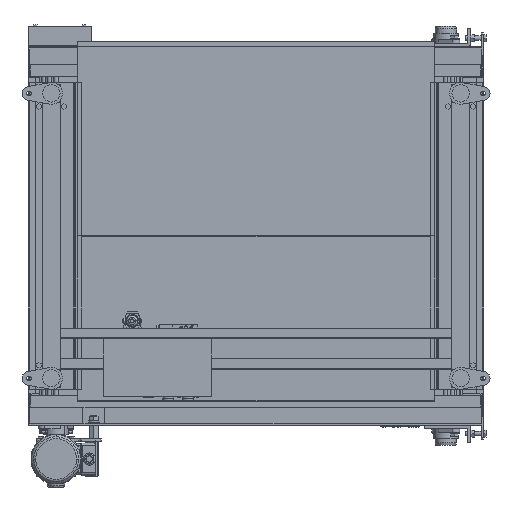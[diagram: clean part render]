
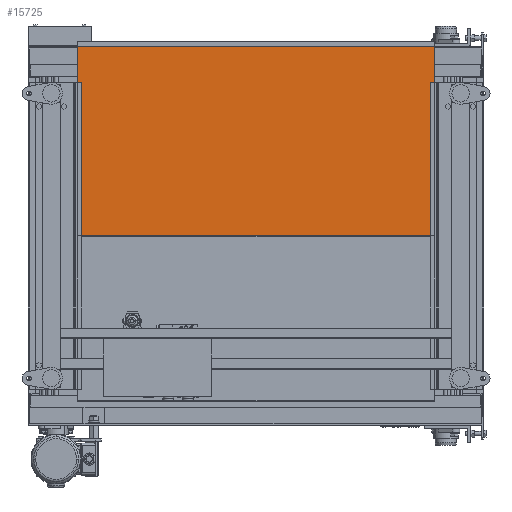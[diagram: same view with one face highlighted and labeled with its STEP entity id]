
A CAD part, front view. The second image highlights one B-rep face of the part: STEP entity #15725.
In plain terms, the highlighted planar face has unit normal (0, -1, 0).
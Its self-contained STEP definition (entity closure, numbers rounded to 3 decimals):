
#3663 = EDGE_LOOP ( 'NONE', ( #53351, #48130, #110041, #100656 ) ) ;
#7161 = EDGE_CURVE ( 'NONE', #27708, #118014, #70258, .T. ) ;
#10335 = VECTOR ( 'NONE', #109816, 1000. ) ;
#11661 = CARTESIAN_POINT ( 'NONE',  ( 137.5, -165., 0. ) ) ;
#15725 = ADVANCED_FACE ( 'NONE', ( #62962 ), #84718, .F. ) ;
#19970 = EDGE_CURVE ( 'NONE', #52332, #123776, #97404, .T. ) ;
#20583 = CARTESIAN_POINT ( 'NONE',  ( 1132.5, -165., 0. ) ) ;
#22772 = EDGE_CURVE ( 'NONE', #123776, #27708, #87075, .T. ) ;
#26257 = CARTESIAN_POINT ( 'NONE',  ( 1132.5, -165., 528.2 ) ) ;
#27708 = VERTEX_POINT ( 'NONE', #108380 ) ;
#34179 = VECTOR ( 'NONE', #119787, 1000. ) ;
#45011 = DIRECTION ( 'NONE',  ( 0., 0., 1. ) ) ;
#48130 = ORIENTED_EDGE ( 'NONE', *, *, #19970, .F. ) ;
#51492 = CARTESIAN_POINT ( 'NONE',  ( 1132.5, -165., 0. ) ) ;
#52332 = VERTEX_POINT ( 'NONE', #51492 ) ;
#52768 = CARTESIAN_POINT ( 'NONE',  ( 137.5, -165., 528.2 ) ) ;
#53351 = ORIENTED_EDGE ( 'NONE', *, *, #22772, .F. ) ;
#54818 = EDGE_CURVE ( 'NONE', #118014, #52332, #56498, .T. ) ;
#56498 = LINE ( 'NONE', #20583, #10335 ) ;
#62328 = VECTOR ( 'NONE', #68141, 1000. ) ;
#62746 = DIRECTION ( 'NONE',  ( 1., 0., 0. ) ) ;
#62962 = FACE_OUTER_BOUND ( 'NONE', #3663, .T. ) ;
#64259 = AXIS2_PLACEMENT_3D ( 'NONE', #75170, #85138, #45011 ) ;
#68141 = DIRECTION ( 'NONE',  ( 0., 0., 1. ) ) ;
#70258 = LINE ( 'NONE', #52768, #113450 ) ;
#75170 = CARTESIAN_POINT ( 'NONE',  ( 635., -165., 527. ) ) ;
#84718 = PLANE ( 'NONE',  #64259 ) ;
#85138 = DIRECTION ( 'NONE',  ( 0., 1., 0. ) ) ;
#87075 = LINE ( 'NONE', #127619, #62328 ) ;
#97404 = LINE ( 'NONE', #11661, #34179 ) ;
#100656 = ORIENTED_EDGE ( 'NONE', *, *, #7161, .F. ) ;
#108380 = CARTESIAN_POINT ( 'NONE',  ( 137.5, -165., 528.2 ) ) ;
#109816 = DIRECTION ( 'NONE',  ( 0., 0., -1. ) ) ;
#110041 = ORIENTED_EDGE ( 'NONE', *, *, #54818, .F. ) ;
#113450 = VECTOR ( 'NONE', #62746, 1000. ) ;
#114974 = CARTESIAN_POINT ( 'NONE',  ( 137.5, -165., 0. ) ) ;
#118014 = VERTEX_POINT ( 'NONE', #26257 ) ;
#119787 = DIRECTION ( 'NONE',  ( -1., 0., 0. ) ) ;
#123776 = VERTEX_POINT ( 'NONE', #114974 ) ;
#127619 = CARTESIAN_POINT ( 'NONE',  ( 137.5, -165., 0. ) ) ;
